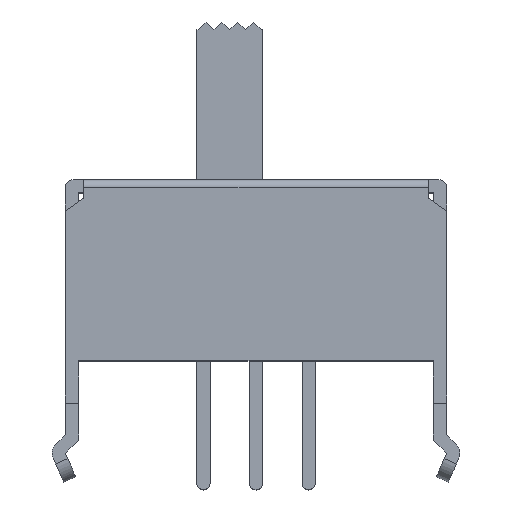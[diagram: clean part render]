
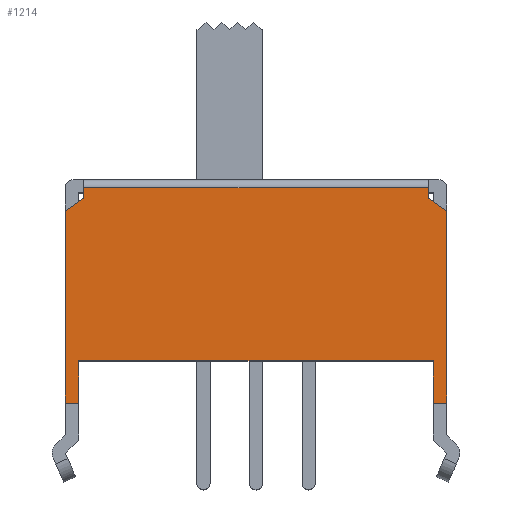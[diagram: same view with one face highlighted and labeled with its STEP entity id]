
A CAD part, top view. The second image highlights one B-rep face of the part: STEP entity #1214.
In plain terms, the highlighted planar face has unit normal (0, 0, 1).
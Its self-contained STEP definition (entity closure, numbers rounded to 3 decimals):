
#30 = VERTEX_POINT ( 'NONE', #1385 ) ;
#36 = VERTEX_POINT ( 'NONE', #1373 ) ;
#129 = EDGE_CURVE ( 'NONE', #36, #30, #1563, .T. ) ;
#258 = VERTEX_POINT ( 'NONE', #1778 ) ;
#298 = EDGE_CURVE ( 'NONE', #36, #258, #1841, .T. ) ;
#326 = EDGE_CURVE ( 'NONE', #30, #328, #1898, .T. ) ;
#328 = VERTEX_POINT ( 'NONE', #1894 ) ;
#1182 = EDGE_CURVE ( 'NONE', #1183, #1184, #3920, .T. ) ;
#1183 = VERTEX_POINT ( 'NONE', #3916 ) ;
#1184 = VERTEX_POINT ( 'NONE', #3915 ) ;
#1204 = EDGE_CURVE ( 'NONE', #1292, #1282, #3948, .T. ) ;
#1205 = VERTEX_POINT ( 'NONE', #3944 ) ;
#1206 = ORIENTED_EDGE ( 'NONE', *, *, #1207, .F. ) ;
#1207 = EDGE_CURVE ( 'NONE', #1184, #1205, #3943, .T. ) ;
#1208 = ORIENTED_EDGE ( 'NONE', *, *, #1182, .F. ) ;
#1209 = EDGE_CURVE ( 'NONE', #1292, #1211, #3939, .T. ) ;
#1210 = ORIENTED_EDGE ( 'NONE', *, *, #1284, .F. ) ;
#1211 = VERTEX_POINT ( 'NONE', #3935 ) ;
#1212 = EDGE_CURVE ( 'NONE', #1211, #1245, #3934, .T. ) ;
#1214 = ADVANCED_FACE ( 'NONE', ( #3930 ), #3929, .T. ) ;
#1215 = EDGE_LOOP ( 'NONE', ( #1235, #1234, #1233, #1227, #1231, #1283, #1281, #1210, #1206, #1208, #1289, #1291 ) ) ;
#1226 = EDGE_CURVE ( 'NONE', #258, #1243, #3971, .T. ) ;
#1227 = ORIENTED_EDGE ( 'NONE', *, *, #1244, .F. ) ;
#1231 = ORIENTED_EDGE ( 'NONE', *, *, #1212, .F. ) ;
#1233 = ORIENTED_EDGE ( 'NONE', *, *, #1226, .T. ) ;
#1234 = ORIENTED_EDGE ( 'NONE', *, *, #298, .T. ) ;
#1235 = ORIENTED_EDGE ( 'NONE', *, *, #129, .F. ) ;
#1243 = VERTEX_POINT ( 'NONE', #4012 ) ;
#1244 = EDGE_CURVE ( 'NONE', #1245, #1243, #4011, .T. ) ;
#1245 = VERTEX_POINT ( 'NONE', #4007 ) ;
#1281 = ORIENTED_EDGE ( 'NONE', *, *, #1204, .T. ) ;
#1282 = VERTEX_POINT ( 'NONE', #4081 ) ;
#1283 = ORIENTED_EDGE ( 'NONE', *, *, #1209, .F. ) ;
#1284 = EDGE_CURVE ( 'NONE', #1205, #1282, #4080, .T. ) ;
#1289 = ORIENTED_EDGE ( 'NONE', *, *, #1290, .F. ) ;
#1290 = EDGE_CURVE ( 'NONE', #328, #1183, #4076, .T. ) ;
#1291 = ORIENTED_EDGE ( 'NONE', *, *, #326, .F. ) ;
#1292 = VERTEX_POINT ( 'NONE', #4072 ) ;
#1373 = CARTESIAN_POINT ( 'NONE',  ( 6.75, 1.6, 3.5 ) ) ;
#1385 = CARTESIAN_POINT ( 'NONE',  ( -6.75, 1.6, 3.5 ) ) ;
#1560 = DIRECTION ( 'NONE',  ( -1., 0., 0. ) ) ;
#1561 = VECTOR ( 'NONE', #1560, 1000. ) ;
#1562 = CARTESIAN_POINT ( 'NONE',  ( 4.7, 1.6, 3.5 ) ) ;
#1563 = LINE ( 'NONE', #1562, #1561 ) ;
#1778 = CARTESIAN_POINT ( 'NONE',  ( 6.75, 0., 3.5 ) ) ;
#1838 = DIRECTION ( 'NONE',  ( 0., -1., 0. ) ) ;
#1839 = VECTOR ( 'NONE', #1838, 1000. ) ;
#1840 = CARTESIAN_POINT ( 'NONE',  ( 6.75, 4.7, 3.5 ) ) ;
#1841 = LINE ( 'NONE', #1840, #1839 ) ;
#1894 = CARTESIAN_POINT ( 'NONE',  ( -6.75, 0., 3.5 ) ) ;
#1895 = DIRECTION ( 'NONE',  ( 0., -1., 0. ) ) ;
#1896 = VECTOR ( 'NONE', #1895, 1000. ) ;
#1897 = CARTESIAN_POINT ( 'NONE',  ( -6.75, 4.7, 3.5 ) ) ;
#1898 = LINE ( 'NONE', #1897, #1896 ) ;
#3915 = CARTESIAN_POINT ( 'NONE',  ( -7.25, 7.3, 3.5 ) ) ;
#3916 = CARTESIAN_POINT ( 'NONE',  ( -7.25, 0., 3.5 ) ) ;
#3917 = DIRECTION ( 'NONE',  ( 0., 1., 0. ) ) ;
#3918 = VECTOR ( 'NONE', #3917, 1000. ) ;
#3919 = CARTESIAN_POINT ( 'NONE',  ( -7.25, 7.3, 3.5 ) ) ;
#3920 = LINE ( 'NONE', #3919, #3918 ) ;
#3928 = AXIS2_PLACEMENT_3D ( 'NONE', #3991, #3990, #3989 ) ;
#3929 = PLANE ( 'NONE',  #3928 ) ;
#3930 = FACE_OUTER_BOUND ( 'NONE', #1215, .T. ) ;
#3931 = DIRECTION ( 'NONE',  ( 0.814, -0.581, 0. ) ) ;
#3932 = VECTOR ( 'NONE', #3931, 1000. ) ;
#3933 = CARTESIAN_POINT ( 'NONE',  ( 6.55, 7.8, 3.5 ) ) ;
#3934 = LINE ( 'NONE', #3933, #3932 ) ;
#3935 = CARTESIAN_POINT ( 'NONE',  ( 6.55, 7.8, 3.5 ) ) ;
#3936 = DIRECTION ( 'NONE',  ( 0., -1., 0. ) ) ;
#3937 = VECTOR ( 'NONE', #3936, 1000. ) ;
#3938 = CARTESIAN_POINT ( 'NONE',  ( 6.55, 8.5, 3.5 ) ) ;
#3939 = LINE ( 'NONE', #3938, #3937 ) ;
#3940 = DIRECTION ( 'NONE',  ( 0.814, 0.581, 0. ) ) ;
#3941 = VECTOR ( 'NONE', #3940, 1000. ) ;
#3942 = CARTESIAN_POINT ( 'NONE',  ( -6.55, 7.8, 3.5 ) ) ;
#3943 = LINE ( 'NONE', #3942, #3941 ) ;
#3944 = CARTESIAN_POINT ( 'NONE',  ( -6.55, 7.8, 3.5 ) ) ;
#3945 = DIRECTION ( 'NONE',  ( -1., 0., 0. ) ) ;
#3946 = VECTOR ( 'NONE', #3945, 1000. ) ;
#3947 = CARTESIAN_POINT ( 'NONE',  ( -7.25, 8.2, 3.5 ) ) ;
#3948 = LINE ( 'NONE', #3947, #3946 ) ;
#3968 = DIRECTION ( 'NONE',  ( 1., 0., 0. ) ) ;
#3969 = VECTOR ( 'NONE', #3968, 1000. ) ;
#3970 = CARTESIAN_POINT ( 'NONE',  ( 6.75, 0., 3.5 ) ) ;
#3971 = LINE ( 'NONE', #3970, #3969 ) ;
#3989 = DIRECTION ( 'NONE',  ( 1., 0., 0. ) ) ;
#3990 = DIRECTION ( 'NONE',  ( 0., 0., 1. ) ) ;
#3991 = CARTESIAN_POINT ( 'NONE',  ( -7.25, 8., 3.5 ) ) ;
#4007 = CARTESIAN_POINT ( 'NONE',  ( 7.25, 7.3, 3.5 ) ) ;
#4008 = DIRECTION ( 'NONE',  ( 0., -1., 0. ) ) ;
#4009 = VECTOR ( 'NONE', #4008, 1000. ) ;
#4010 = CARTESIAN_POINT ( 'NONE',  ( 7.25, 7.3, 3.5 ) ) ;
#4011 = LINE ( 'NONE', #4010, #4009 ) ;
#4012 = CARTESIAN_POINT ( 'NONE',  ( 7.25, 0., 3.5 ) ) ;
#4072 = CARTESIAN_POINT ( 'NONE',  ( 6.55, 8.2, 3.5 ) ) ;
#4073 = DIRECTION ( 'NONE',  ( -1., 0., 0. ) ) ;
#4074 = VECTOR ( 'NONE', #4073, 1000. ) ;
#4075 = CARTESIAN_POINT ( 'NONE',  ( -6.75, 0., 3.5 ) ) ;
#4076 = LINE ( 'NONE', #4075, #4074 ) ;
#4077 = DIRECTION ( 'NONE',  ( 0., 1., 0. ) ) ;
#4078 = VECTOR ( 'NONE', #4077, 1000. ) ;
#4079 = CARTESIAN_POINT ( 'NONE',  ( -6.55, 8.5, 3.5 ) ) ;
#4080 = LINE ( 'NONE', #4079, #4078 ) ;
#4081 = CARTESIAN_POINT ( 'NONE',  ( -6.55, 8.2, 3.5 ) ) ;
